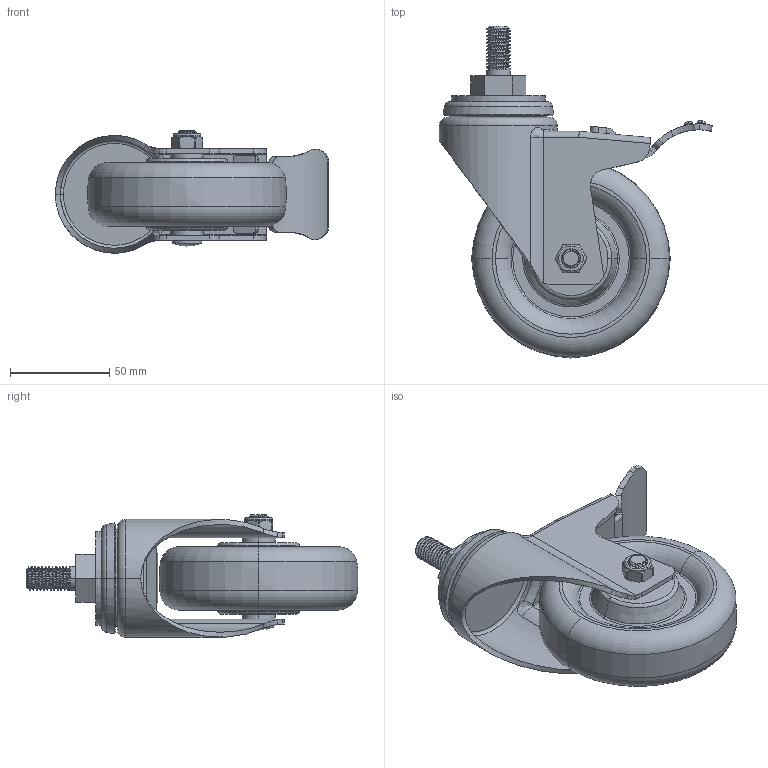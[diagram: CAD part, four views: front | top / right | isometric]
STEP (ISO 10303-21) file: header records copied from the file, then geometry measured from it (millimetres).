
FILE_DESCRIPTION((''),'2;1');
FILE_NAME('50144L-504-86_ASM','2020-01-01T',('L'),(''),'PRO/ENGINEER BY PARAMETRIC TECHNOLOGY CORPORATION, 2010280','PRO/ENGINEER BY PARAMETRIC TECHNOLOGY CORPORATION, 2010280','');
FILE_SCHEMA(('CONFIG_CONTROL_DESIGN'));
Length unit declared in the file: millimetre
Products named in the file (6): 50144; 540-14; 504-986; 570-33; 570-34; 50144L-504-86_ASM
Assembly tree (5 placements, depth 2):
  50144L-504-86_ASM
    50144
    540-14
    504-986
    570-33
    570-34
Bounding box: 137.36 x 166.98 x 61.65 mm (x, y, z)
Volume: 292436.4 mm3; surface area: 71988.1 mm2
Topology: 9 solids, 9 shells, 340 faces, 819 edges, 507 vertices
Faces by surface type: cylinder 128, plane 92, bspline 56, torus 32, cone 30, sphere 2
Entity records: 17936 total; most frequent: CARTESIAN_POINT 10353, ORIENTED_EDGE 1634, DIRECTION 1411, EDGE_CURVE 817, AXIS2_PLACEMENT_3D 539, VERTEX_POINT 507, EDGE_LOOP 360, FACE_OUTER_BOUND 340
